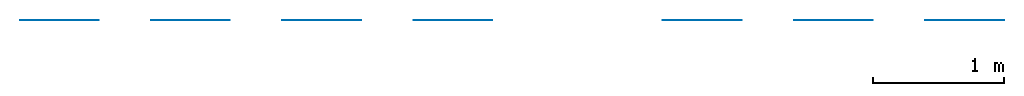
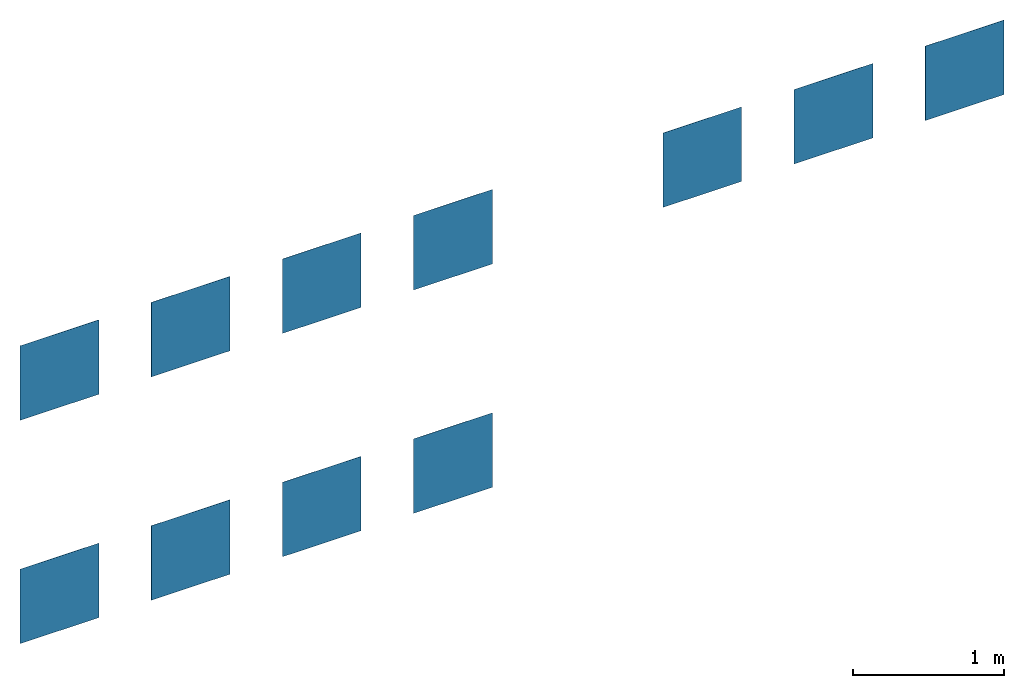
# One storey: 11 walls.
"""IFC2X3 building model written with IfcOpenShell, lengths in metres."""

from ifc_helpers import new_model, entity, si_unit, converted_unit, derived_unit, direction, frame, frame_2d, origin, place, context, subcontext, project, spatial, rectangle, extrude, material, layer, layer_set, layer_usage, type_object, element, save


model = new_model("IFC2X3")

# Units and contexts
model_context = context("Model", 3, precision=1e-05, world=origin(), true_north=direction((6.12303176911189e-17, 1.0)))
body_context = subcontext(model_context, "Body", "Model", "MODEL_VIEW")
ifc_project = project(units=[si_unit("LENGTHUNIT", "METRE"), si_unit("AREAUNIT", "SQUARE_METRE"), si_unit("VOLUMEUNIT", "CUBIC_METRE"), converted_unit("PLANEANGLEUNIT", "DEGREE", entity("IfcRatioMeasure", 0.0174532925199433), si_unit("PLANEANGLEUNIT", "RADIAN"), dimensions=[0, 0, 0, 0, 0, 0, 0]), si_unit("MASSUNIT", "GRAM", prefix="KILO"), si_unit("TIMEUNIT", "SECOND"), si_unit("FREQUENCYUNIT", "HERTZ"), si_unit("THERMODYNAMICTEMPERATUREUNIT", "DEGREE_CELSIUS"), derived_unit("THERMALTRANSMITTANCEUNIT", [(si_unit("MASSUNIT", "GRAM", prefix="KILO"), 1), (si_unit("THERMODYNAMICTEMPERATUREUNIT", "KELVIN"), -1), (si_unit("TIMEUNIT", "SECOND"), -3)]), derived_unit("VOLUMETRICFLOWRATEUNIT", [(si_unit("LENGTHUNIT", "METRE"), 3), (si_unit("TIMEUNIT", "SECOND"), -1)]), si_unit("ELECTRICCURRENTUNIT", "AMPERE"), si_unit("ELECTRICVOLTAGEUNIT", "VOLT"), si_unit("POWERUNIT", "WATT"), si_unit("FORCEUNIT", "NEWTON", prefix="KILO"), si_unit("ILLUMINANCEUNIT", "LUX"), si_unit("LUMINOUSFLUXUNIT", "LUMEN"), si_unit("LUMINOUSINTENSITYUNIT", "CANDELA"), derived_unit("USERDEFINED", [(si_unit("MASSUNIT", "GRAM", prefix="KILO"), -1), (si_unit("LENGTHUNIT", "METRE"), -2), (si_unit("TIMEUNIT", "SECOND"), 3), (si_unit("LUMINOUSFLUXUNIT", "LUMEN"), 1)]), derived_unit("LINEARVELOCITYUNIT", [(si_unit("LENGTHUNIT", "METRE"), 1), (si_unit("TIMEUNIT", "SECOND"), -1)]), si_unit("PRESSUREUNIT", "PASCAL"), derived_unit("USERDEFINED", [(si_unit("LENGTHUNIT", "METRE"), -2), (si_unit("MASSUNIT", "GRAM", prefix="KILO"), 1), (si_unit("TIMEUNIT", "SECOND"), -2)])], contexts=[model_context])

# Site, building, storey
site_placement = place(None, origin())
site = spatial("IfcSite", under=ifc_project, at=site_placement, Name="Default", CompositionType="ELEMENT")
building_placement = place(site_placement, origin())
building = spatial("IfcBuilding", under=site, at=building_placement, CompositionType="ELEMENT")
storey_placement = place(building_placement, frame((0.0, 0.0, 3.0)))
storey = spatial("IfcBuildingStorey", under=building, at=storey_placement, Name="Nivel 2", CompositionType="ELEMENT", Elevation=3.0)

# Walls
ifc_material_1 = material(Name="VIVES CEPPO DI GRE CEMENTO 60x60")
ifc_layer_1 = layer(ifc_material_1, 0.001)
ifc_layer_set_1 = layer_set([ifc_layer_1], Name="Muro básico:VIVES CEPPO DI GRE CEMENTO 60x60")
ifc_layer_usage_1 = layer_usage(ifc_layer_set_1, "AXIS2", "NEGATIVE", 0.000500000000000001)
wall_type_1 = type_object("IfcWallType", Name="Muro básico:VIVES CEPPO DI GRE CEMENTO 60x60", PredefinedType="STANDARD", material=ifc_layer_set_1)
wall_1_placement = place(storey_placement, frame((1.14658071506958, -5.69103068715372, -2.1)))
element("IfcWallStandardCase", 1, at=wall_1_placement, inside=storey, type_object=wall_type_1, material=ifc_layer_usage_1, Name="Muro básico:VIVES CEPPO DI GRE CEMENTO 60x60", ObjectType="Muro básico:VIVES CEPPO DI GRE CEMENTO 60x60", context=body_context, shape_type="SweptSolid", body=[
    extrude(rectangle(XDim=0.6, YDim=0.000999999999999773, at=frame_2d((0.3, -7.47557397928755e-17), x_axis=(-1.0, 0.0))), origin(), (0.0, 0.0, 1.0), 0.6),
])
ifc_material_2 = material(Name="VIVES CEPPO DI GRE GRIS 60x60")
ifc_layer_2 = layer(ifc_material_2, 0.001)
ifc_layer_set_2 = layer_set([ifc_layer_2], Name="Muro básico:VIVES CEPPO DI GRE GRIS 60x60")
ifc_layer_usage_2 = layer_usage(ifc_layer_set_2, "AXIS2", "NEGATIVE", 0.000500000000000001)
wall_type_2 = type_object("IfcWallType", Name="Muro básico:VIVES CEPPO DI GRE GRIS 60x60", PredefinedType="STANDARD", material=ifc_layer_set_2)
wall_2_placement = place(storey_placement, frame((2.14658071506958, -5.69103068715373, -2.1)))
element("IfcWallStandardCase", 2, at=wall_2_placement, inside=storey, type_object=wall_type_2, material=ifc_layer_usage_2, Name="Muro básico:VIVES CEPPO DI GRE GRIS 60x60", ObjectType="Muro básico:VIVES CEPPO DI GRE GRIS 60x60", context=body_context, shape_type="SweptSolid", body=[
    extrude(rectangle(XDim=0.6, YDim=0.000999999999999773, at=frame_2d((0.3, -7.47557397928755e-17), x_axis=(-1.0, 0.0))), origin(), (0.0, 0.0, 1.0), 0.6),
])
ifc_material_3 = material(Name="VIVES CEPPO DI GRE MARFIL 60x60")
ifc_layer_3 = layer(ifc_material_3, 0.001)
ifc_layer_set_3 = layer_set([ifc_layer_3], Name="Muro básico:VIVES CEPPO DI GRE MARFIL 60x60")
ifc_layer_usage_3 = layer_usage(ifc_layer_set_3, "AXIS2", "NEGATIVE", 0.000500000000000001)
wall_type_3 = type_object("IfcWallType", Name="Muro básico:VIVES CEPPO DI GRE MARFIL 60x60", PredefinedType="STANDARD", material=ifc_layer_set_3)
wall_3_placement = place(storey_placement, frame((3.14658071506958, -5.69103068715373, -2.1)))
element("IfcWallStandardCase", 3, at=wall_3_placement, inside=storey, type_object=wall_type_3, material=ifc_layer_usage_3, Name="Muro básico:VIVES CEPPO DI GRE MARFIL 60x60", ObjectType="Muro básico:VIVES CEPPO DI GRE MARFIL 60x60", context=body_context, shape_type="SweptSolid", body=[
    extrude(rectangle(XDim=0.6, YDim=0.000999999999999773, at=frame_2d((0.3, -7.47557397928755e-17), x_axis=(-1.0, 0.0))), origin(), (0.0, 0.0, 1.0), 0.6),
])
ifc_material_4 = material(Name="VIVES ORIYAS NATURAL 60x60")
ifc_layer_4 = layer(ifc_material_4, 0.001)
ifc_layer_set_4 = layer_set([ifc_layer_4], Name="Muro básico:VIVES ORIYAS NATURAL 60x60")
ifc_layer_usage_4 = layer_usage(ifc_layer_set_4, "AXIS2", "NEGATIVE", 0.000500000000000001)
wall_type_4 = type_object("IfcWallType", Name="Muro básico:VIVES ORIYAS NATURAL 60x60", PredefinedType="STANDARD", material=ifc_layer_set_4)
wall_4_placement = place(storey_placement, frame((4.14658071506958, -5.69103068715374, -2.1)))
element("IfcWallStandardCase", 4, at=wall_4_placement, inside=storey, type_object=wall_type_4, material=ifc_layer_usage_4, Name="Muro básico:VIVES ORIYAS NATURAL 60x60", ObjectType="Muro básico:VIVES ORIYAS NATURAL 60x60", context=body_context, shape_type="SweptSolid", body=[
    extrude(rectangle(XDim=0.6, YDim=0.000999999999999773, at=frame_2d((0.3, -7.47557397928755e-17), x_axis=(-1.0, 0.0))), origin(), (0.0, 0.0, 1.0), 0.6),
])
ifc_material_5 = material(Name="VIVES CEPPO DI GRE-R CEMENTO 59.3x59.3")
ifc_layer_5 = layer(ifc_material_5, 0.001)
ifc_layer_set_5 = layer_set([ifc_layer_5], Name="Muro básico:VIVES CEPPO DI GRE-R CEMENTO 59.3x59.3")
ifc_layer_usage_5 = layer_usage(ifc_layer_set_5, "AXIS2", "NEGATIVE", 0.000500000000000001)
wall_type_5 = type_object("IfcWallType", Name="Muro básico:VIVES CEPPO DI GRE-R CEMENTO 59.3x59.3", PredefinedType="STANDARD", material=ifc_layer_set_5)
wall_5_placement = place(storey_placement, frame((1.14658071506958, -5.69103068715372, -0.299999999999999)))
element("IfcWallStandardCase", 5, at=wall_5_placement, inside=storey, type_object=wall_type_5, material=ifc_layer_usage_5, Name="Muro básico:VIVES CEPPO DI GRE-R CEMENTO 59.3x59.3", ObjectType="Muro básico:VIVES CEPPO DI GRE-R CEMENTO 59.3x59.3", context=body_context, shape_type="SweptSolid", body=[
    extrude(rectangle(XDim=0.6, YDim=0.000999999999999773, at=frame_2d((0.3, -7.47557397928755e-17), x_axis=(-1.0, 0.0))), origin(), (0.0, 0.0, 1.0), 0.6),
])
ifc_material_6 = material(Name="VIVES CEPPO DI GRE-R GRIS 59.3x59.3")
ifc_layer_6 = layer(ifc_material_6, 0.001)
ifc_layer_set_6 = layer_set([ifc_layer_6], Name="Muro básico:VIVES CEPPO DI GRE-R GRIS 59.3x59.3")
ifc_layer_usage_6 = layer_usage(ifc_layer_set_6, "AXIS2", "NEGATIVE", 0.000500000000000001)
wall_type_6 = type_object("IfcWallType", Name="Muro básico:VIVES CEPPO DI GRE-R GRIS 59.3x59.3", PredefinedType="STANDARD", material=ifc_layer_set_6)
wall_6_placement = place(storey_placement, frame((2.14658071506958, -5.69103068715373, -0.299999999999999)))
element("IfcWallStandardCase", 6, at=wall_6_placement, inside=storey, type_object=wall_type_6, material=ifc_layer_usage_6, Name="Muro básico:VIVES CEPPO DI GRE-R GRIS 59.3x59.3", ObjectType="Muro básico:VIVES CEPPO DI GRE-R GRIS 59.3x59.3", context=body_context, shape_type="SweptSolid", body=[
    extrude(rectangle(XDim=0.6, YDim=0.000999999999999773, at=frame_2d((0.3, -7.47557397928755e-17), x_axis=(-1.0, 0.0))), origin(), (0.0, 0.0, 1.0), 0.6),
])
ifc_material_7 = material(Name="VIVES CEPPO DI GRE-R MARFIL 59.3x59.3")
ifc_layer_7 = layer(ifc_material_7, 0.001)
ifc_layer_set_7 = layer_set([ifc_layer_7], Name="Muro básico:VIVES CEPPO DI GRE-R MARFIL 59.3x59.3")
ifc_layer_usage_7 = layer_usage(ifc_layer_set_7, "AXIS2", "NEGATIVE", 0.000500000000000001)
wall_type_7 = type_object("IfcWallType", Name="Muro básico:VIVES CEPPO DI GRE-R MARFIL 59.3x59.3", PredefinedType="STANDARD", material=ifc_layer_set_7)
wall_7_placement = place(storey_placement, frame((3.14658071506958, -5.69103068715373, -0.299999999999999)))
element("IfcWallStandardCase", 7, at=wall_7_placement, inside=storey, type_object=wall_type_7, material=ifc_layer_usage_7, Name="Muro básico:VIVES CEPPO DI GRE-R MARFIL 59.3x59.3", ObjectType="Muro básico:VIVES CEPPO DI GRE-R MARFIL 59.3x59.3", context=body_context, shape_type="SweptSolid", body=[
    extrude(rectangle(XDim=0.6, YDim=0.000999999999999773, at=frame_2d((0.3, -7.47557397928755e-17), x_axis=(-1.0, 0.0))), origin(), (0.0, 0.0, 1.0), 0.6),
])
ifc_material_8 = material(Name="VIVES ORIYAS-R NATURAL 59.3x59.3")
ifc_layer_8 = layer(ifc_material_8, 0.001)
ifc_layer_set_8 = layer_set([ifc_layer_8], Name="Muro básico:VIVES ORIYAS-R NATURAL 59.3x59.3")
ifc_layer_usage_8 = layer_usage(ifc_layer_set_8, "AXIS2", "NEGATIVE", 0.000500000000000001)
wall_type_8 = type_object("IfcWallType", Name="Muro básico:VIVES ORIYAS-R NATURAL 59.3x59.3", PredefinedType="STANDARD", material=ifc_layer_set_8)
wall_8_placement = place(storey_placement, frame((4.14658071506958, -5.69103068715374, -0.299999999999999)))
element("IfcWallStandardCase", 8, at=wall_8_placement, inside=storey, type_object=wall_type_8, material=ifc_layer_usage_8, Name="Muro básico:VIVES ORIYAS-R NATURAL 59.3x59.3", ObjectType="Muro básico:VIVES ORIYAS-R NATURAL 59.3x59.3", context=body_context, shape_type="SweptSolid", body=[
    extrude(rectangle(XDim=0.6, YDim=0.000999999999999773, at=frame_2d((0.3, -7.47557397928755e-17), x_axis=(-1.0, 0.0))), origin(), (0.0, 0.0, 1.0), 0.6),
])
ifc_material_9 = material(Name="VIVES MOSAICO AYMARAS CEMENTO 24.2x39.5")
ifc_layer_9 = layer(ifc_material_9, 0.001)
ifc_layer_set_9 = layer_set([ifc_layer_9], Name="Muro básico:VIVES MOS. AYMARAS CEMENTO 24.2x39.5")
ifc_layer_usage_9 = layer_usage(ifc_layer_set_9, "AXIS2", "NEGATIVE", 0.000500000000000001)
wall_type_9 = type_object("IfcWallType", Name="Muro básico:VIVES MOS. AYMARAS CEMENTO 24.2x39.5", PredefinedType="STANDARD", material=ifc_layer_set_9)
wall_9_placement = place(storey_placement, frame((6.04658071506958, -5.69103068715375, -0.3)))
element("IfcWallStandardCase", 9, at=wall_9_placement, inside=storey, type_object=wall_type_9, material=ifc_layer_usage_9, Name="Muro básico:VIVES MOS. AYMARAS CEMENTO 24.2x39.5", ObjectType="Muro básico:VIVES MOS. AYMARAS CEMENTO 24.2x39.5", context=body_context, shape_type="SweptSolid", body=[
    extrude(rectangle(XDim=0.6, YDim=0.000999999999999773, at=frame_2d((0.3, -7.47557397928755e-17), x_axis=(-1.0, 0.0))), origin(), (0.0, 0.0, 1.0), 0.6),
])
ifc_material_10 = material(Name="VIVES MOSAICO AYMARAS GRIS 24.2x39.5")
ifc_layer_10 = layer(ifc_material_10, 0.001)
ifc_layer_set_10 = layer_set([ifc_layer_10], Name="Muro básico:VIVES MOS. AYMARAS GRIS 24.2x39.5")
ifc_layer_usage_10 = layer_usage(ifc_layer_set_10, "AXIS2", "NEGATIVE", 0.000500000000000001)
wall_type_10 = type_object("IfcWallType", Name="Muro básico:VIVES MOS. AYMARAS GRIS 24.2x39.5", PredefinedType="STANDARD", material=ifc_layer_set_10)
wall_10_placement = place(storey_placement, frame((7.04658071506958, -5.69103068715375, -0.3)))
element("IfcWallStandardCase", 10, at=wall_10_placement, inside=storey, type_object=wall_type_10, material=ifc_layer_usage_10, Name="Muro básico:VIVES MOS. AYMARAS GRIS 24.2x39.5", ObjectType="Muro básico:VIVES MOS. AYMARAS GRIS 24.2x39.5", context=body_context, shape_type="SweptSolid", body=[
    extrude(rectangle(XDim=0.6, YDim=0.000999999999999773, at=frame_2d((0.3, -7.47557397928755e-17), x_axis=(-1.0, 0.0))), origin(), (0.0, 0.0, 1.0), 0.6),
])
ifc_material_11 = material(Name="VIVES MOSAICO AYMARAS MARFIL 24.2x39.5")
ifc_layer_11 = layer(ifc_material_11, 0.001)
ifc_layer_set_11 = layer_set([ifc_layer_11], Name="Muro básico:VIVES MOS. AYMARAS MARFIL 24.2x39.5")
ifc_layer_usage_11 = layer_usage(ifc_layer_set_11, "AXIS2", "NEGATIVE", 0.000500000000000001)
wall_type_11 = type_object("IfcWallType", Name="Muro básico:VIVES MOS. AYMARAS MARFIL 24.2x39.5", PredefinedType="STANDARD", material=ifc_layer_set_11)
wall_11_placement = place(storey_placement, frame((8.04658071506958, -5.69103068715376, -0.3)))
element("IfcWallStandardCase", 11, at=wall_11_placement, inside=storey, type_object=wall_type_11, material=ifc_layer_usage_11, Name="Muro básico:VIVES MOS. AYMARAS MARFIL 24.2x39.5", ObjectType="Muro básico:VIVES MOS. AYMARAS MARFIL 24.2x39.5", context=body_context, shape_type="SweptSolid", body=[
    extrude(rectangle(XDim=0.6, YDim=0.000999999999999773, at=frame_2d((0.3, -7.47557397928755e-17), x_axis=(-1.0, 0.0))), origin(), (0.0, 0.0, 1.0), 0.6),
])

save(model, "model.ifc")
